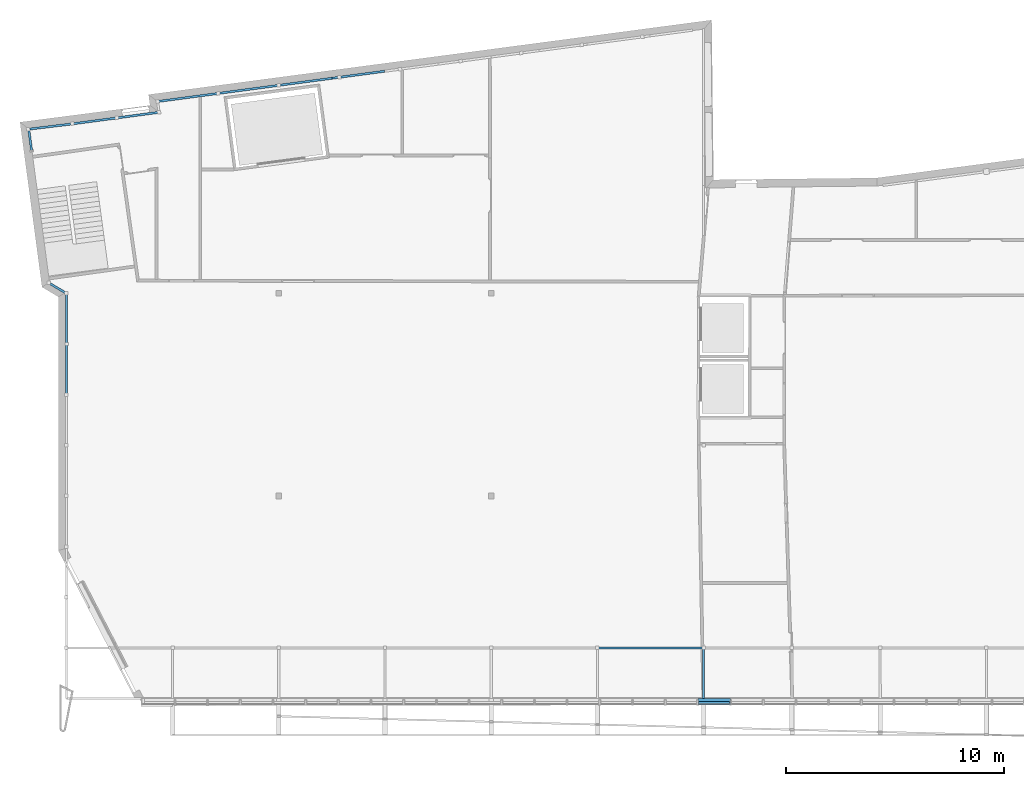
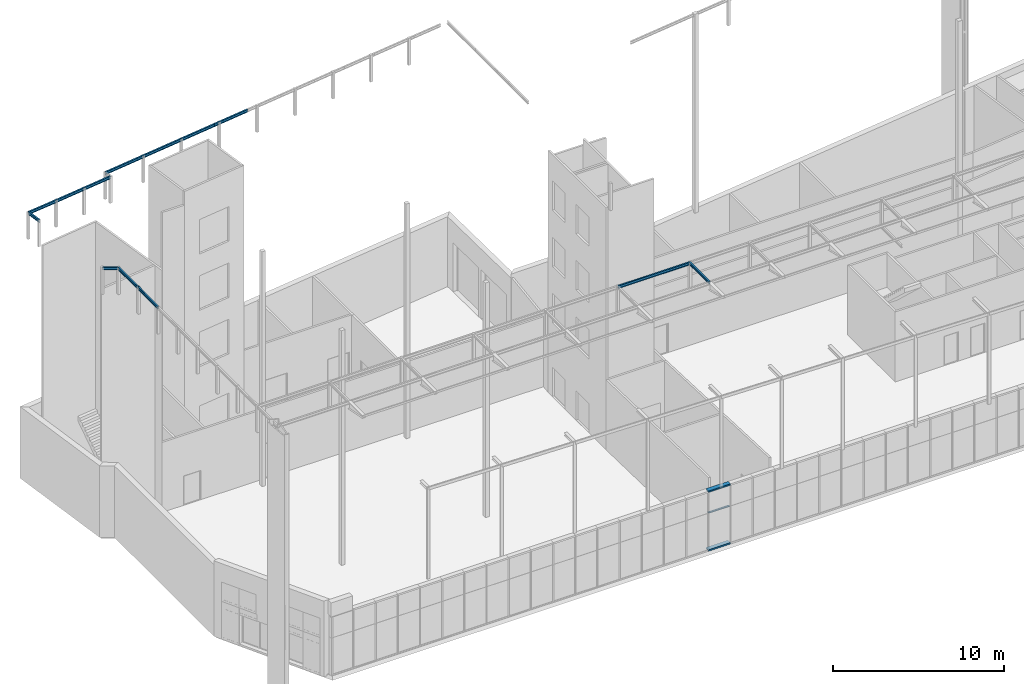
# One storey, part 9 of 40: 13 beams, 4 members, 1 element without a shape of its own.
"""IFC2X3 building model written with IfcOpenShell, lengths in metres."""

from ifc_helpers import new_model, entity, si_unit, converted_unit, money_unit, point, direction, frame, frame_2d, origin_with_axes, place, context, subcontext, project, spatial, polyline, circle_curve, parameter, trimmed, segment, composite_curve, outline, extrude, material, type_object, element, aggregate, save


model = new_model("IFC2X3")

# Units and contexts
model_context = context("Model", 3, precision=1e-05, world=origin_with_axes(), true_north=direction((0.0, 1.0)))
body_context = subcontext(model_context, "Body", "Model", "MODEL_VIEW")
ifc_project = project(units=[si_unit("LENGTHUNIT", "METRE"), si_unit("AREAUNIT", "SQUARE_METRE"), si_unit("VOLUMEUNIT", "CUBIC_METRE"), converted_unit("PLANEANGLEUNIT", "DEGREE", entity("IfcPlaneAngleMeasure", 0.0174532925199), si_unit("PLANEANGLEUNIT", "RADIAN"), dimensions=[0, 0, 0, 0, 0, 0, 0]), si_unit("SOLIDANGLEUNIT", "STERADIAN"), money_unit("EUR"), converted_unit("TIMEUNIT", "Year", entity("IfcTimeMeasure", 31556926.0), si_unit("TIMEUNIT", "SECOND"), dimensions=[0, 0, 0, 0, 0, 0, 0]), si_unit("MASSUNIT", "GRAM"), si_unit("THERMODYNAMICTEMPERATUREUNIT", "DEGREE_CELSIUS"), si_unit("LUMINOUSINTENSITYUNIT", "LUMEN")], contexts=[model_context])

# Site, building, storey
site_placement = place(None, origin_with_axes())
site = spatial("IfcSite", under=ifc_project, at=site_placement, Name="Undefined", CompositionType="ELEMENT")
building_placement = place(site_placement, origin_with_axes())
building = spatial("IfcBuilding", under=site, at=building_placement, Name="Undefined", CompositionType="ELEMENT")
storey_placement = place(building_placement, origin_with_axes())
storey = spatial("IfcBuildingStorey", under=building, at=storey_placement, Name="Rez de chauss\x8ee", CompositionType="ELEMENT", Elevation=0.0)

# Beams
ifc_material_1 = material(Name="STEEL/S235JRG2 3386696625")
beam_type_1 = type_object("IfcBeamType", Name="IPE200", PredefinedType="NOTDEFINED")
beam_1_placement = place(storey_placement, frame((0.278649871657, 26.379344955, 19.025), z_axis=(0.0, 0.0, 1.0), x_axis=(0.132256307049, -0.991215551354, 0.0)))
element("IfcBeam", 1, at=beam_1_placement, inside=storey, type_object=beam_type_1, material=ifc_material_1, Name="Poutre", ObjectType="BEAM", context=body_context, shape_type="SweptSolid", body=[
    extrude(outline(composite_curve([segment(polyline([(0.05, -0.1), (0.05, -0.0915), (0.0147999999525, -0.0915)]), True, "CONTINUOUS"), segment(trimmed(circle_curve(frame_2d((0.0147999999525, -0.0795), x_axis=(-1.0, 0.0)), 0.012), [point((0.0147999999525, -0.0915)), parameter(90.0)], [point((0.0027999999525, -0.0795)), parameter(0.0)], False, "CARTESIAN"), True, "CONTINUOUS"), segment(polyline([(0.0027999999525, -0.0795), (0.0027999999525, 0.0795)]), True, "CONTINUOUS"), segment(trimmed(circle_curve(frame_2d((0.0147999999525, 0.0795), x_axis=(0.0, 1.0)), 0.012), [point((0.0027999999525, 0.0795)), parameter(90.0)], [point((0.0147999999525, 0.0915)), parameter(0.0)], False, "CARTESIAN"), True, "CONTINUOUS"), segment(polyline([(0.0147999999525, 0.0915), (0.05, 0.0915), (0.05, 0.1), (-0.05, 0.1), (-0.05, 0.0915), (-0.0147999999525, 0.0915)]), True, "CONTINUOUS"), segment(trimmed(circle_curve(frame_2d((-0.0147999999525, 0.0795), x_axis=(1.0, 0.0)), 0.012), [point((-0.0147999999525, 0.0915)), parameter(90.0)], [point((-0.0027999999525, 0.0795)), parameter(0.0)], False, "CARTESIAN"), True, "CONTINUOUS"), segment(polyline([(-0.0027999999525, 0.0795), (-0.0027999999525, -0.0795)]), True, "CONTINUOUS"), segment(trimmed(circle_curve(frame_2d((-0.0147999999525, -0.0795), x_axis=(0.0, -1.0)), 0.012), [point((-0.0027999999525, -0.0795)), parameter(90.0)], [point((-0.0147999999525, -0.0915)), parameter(0.0)], False, "CARTESIAN"), True, "CONTINUOUS"), segment(polyline([(-0.0147999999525, -0.0915), (-0.05, -0.0915), (-0.05, -0.1), (0.05, -0.1)]), True, "CONTINUOUS")], self_intersect=False)), frame((0.0, 2.04999794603, 0.0), z_axis=(0.0, -1.0, 0.0), x_axis=(1.0, 0.0, 0.0)), (0.0, 0.0, 1.0), 2.04999794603),
])
beam_2_placement = place(storey_placement, frame((2.31063974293, 26.6504699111, 19.025), z_axis=(0.0, 0.0, 1.0), x_axis=(0.132256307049, -0.991215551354, 0.0)))
element("IfcBeam", 2, at=beam_2_placement, inside=storey, type_object=beam_type_1, material=ifc_material_1, Name="Poutre", ObjectType="BEAM", context=body_context, shape_type="SweptSolid", body=[
    extrude(outline(composite_curve([segment(polyline([(0.05, -0.1), (0.05, -0.0915), (0.0147999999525, -0.0915)]), True, "CONTINUOUS"), segment(trimmed(circle_curve(frame_2d((0.0147999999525, -0.0795), x_axis=(-1.0, 0.0)), 0.012), [point((0.0147999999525, -0.0915)), parameter(90.0)], [point((0.0027999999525, -0.0795)), parameter(0.0)], False, "CARTESIAN"), True, "CONTINUOUS"), segment(polyline([(0.0027999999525, -0.0795), (0.0027999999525, 0.0795)]), True, "CONTINUOUS"), segment(trimmed(circle_curve(frame_2d((0.0147999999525, 0.0795), x_axis=(0.0, 1.0)), 0.012), [point((0.0027999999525, 0.0795)), parameter(90.0)], [point((0.0147999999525, 0.0915)), parameter(0.0)], False, "CARTESIAN"), True, "CONTINUOUS"), segment(polyline([(0.0147999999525, 0.0915), (0.05, 0.0915), (0.05, 0.1), (-0.05, 0.1), (-0.05, 0.0915), (-0.0147999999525, 0.0915)]), True, "CONTINUOUS"), segment(trimmed(circle_curve(frame_2d((-0.0147999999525, 0.0795), x_axis=(1.0, 0.0)), 0.012), [point((-0.0147999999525, 0.0915)), parameter(90.0)], [point((-0.0027999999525, 0.0795)), parameter(0.0)], False, "CARTESIAN"), True, "CONTINUOUS"), segment(polyline([(-0.0027999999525, 0.0795), (-0.0027999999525, -0.0795)]), True, "CONTINUOUS"), segment(trimmed(circle_curve(frame_2d((-0.0147999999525, -0.0795), x_axis=(0.0, -1.0)), 0.012), [point((-0.0027999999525, -0.0795)), parameter(90.0)], [point((-0.0147999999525, -0.0915)), parameter(0.0)], False, "CARTESIAN"), True, "CONTINUOUS"), segment(polyline([(-0.0147999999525, -0.0915), (-0.05, -0.0915), (-0.05, -0.1), (0.05, -0.1)]), True, "CONTINUOUS")], self_intersect=False)), frame((0.0, 1.96000612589, 0.0), z_axis=(0.0, -1.0, 0.0), x_axis=(1.0, 0.0, 0.0)), (0.0, 0.0, 1.0), 1.96000612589),
])
beam_3_placement = place(storey_placement, frame((0.0136786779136, 16.2749999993, 19.025), z_axis=(0.0, 0.0, 1.0), x_axis=(0.999982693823, 0.00588320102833, 0.0)))
element("IfcBeam", 3, at=beam_3_placement, inside=storey, type_object=beam_type_1, material=ifc_material_1, Name="Poutre", ObjectType="BEAM", context=body_context, shape_type="SweptSolid", body=[
    extrude(outline(composite_curve([segment(polyline([(0.05, -0.1), (0.05, -0.0915), (0.0147999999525, -0.0915)]), True, "CONTINUOUS"), segment(trimmed(circle_curve(frame_2d((0.0147999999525, -0.0795), x_axis=(-1.0, 0.0)), 0.012), [point((0.0147999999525, -0.0915)), parameter(90.0)], [point((0.0027999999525, -0.0795)), parameter(0.0)], False, "CARTESIAN"), True, "CONTINUOUS"), segment(polyline([(0.0027999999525, -0.0795), (0.0027999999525, 0.0795)]), True, "CONTINUOUS"), segment(trimmed(circle_curve(frame_2d((0.0147999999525, 0.0795), x_axis=(0.0, 1.0)), 0.012), [point((0.0027999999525, 0.0795)), parameter(90.0)], [point((0.0147999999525, 0.0915)), parameter(0.0)], False, "CARTESIAN"), True, "CONTINUOUS"), segment(polyline([(0.0147999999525, 0.0915), (0.05, 0.0915), (0.05, 0.1), (-0.05, 0.1), (-0.05, 0.0915), (-0.0147999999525, 0.0915)]), True, "CONTINUOUS"), segment(trimmed(circle_curve(frame_2d((-0.0147999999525, 0.0795), x_axis=(1.0, 0.0)), 0.012), [point((-0.0147999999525, 0.0915)), parameter(90.0)], [point((-0.0027999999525, 0.0795)), parameter(0.0)], False, "CARTESIAN"), True, "CONTINUOUS"), segment(polyline([(-0.0027999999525, 0.0795), (-0.0027999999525, -0.0795)]), True, "CONTINUOUS"), segment(trimmed(circle_curve(frame_2d((-0.0147999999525, -0.0795), x_axis=(0.0, -1.0)), 0.012), [point((-0.0027999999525, -0.0795)), parameter(90.0)], [point((-0.0147999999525, -0.0915)), parameter(0.0)], False, "CARTESIAN"), True, "CONTINUOUS"), segment(polyline([(-0.0147999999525, -0.0915), (-0.05, -0.0915), (-0.05, -0.1), (0.05, -0.1)]), True, "CONTINUOUS")], self_intersect=False)), frame((0.0, 2.32504023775, 0.0), z_axis=(0.0, -1.0, 0.0), x_axis=(1.0, 0.0, 0.0)), (0.0, 0.0, 1.0), 2.32504023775),
])
beam_4_placement = place(storey_placement, frame((0.0, 13.9499999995, 19.025), z_axis=(0.0, 0.0, 1.0), x_axis=(0.999982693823, -0.00588320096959, 0.0)))
element("IfcBeam", 4, at=beam_4_placement, inside=storey, type_object=beam_type_1, material=ifc_material_1, Name="Poutre", ObjectType="BEAM", context=body_context, shape_type="SweptSolid", body=[
    extrude(outline(composite_curve([segment(polyline([(0.05, -0.1), (0.05, -0.0915), (0.0147999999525, -0.0915)]), True, "CONTINUOUS"), segment(trimmed(circle_curve(frame_2d((0.0147999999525, -0.0795), x_axis=(-1.0, 0.0)), 0.012), [point((0.0147999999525, -0.0915)), parameter(90.0)], [point((0.0027999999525, -0.0795)), parameter(0.0)], False, "CARTESIAN"), True, "CONTINUOUS"), segment(polyline([(0.0027999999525, -0.0795), (0.0027999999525, 0.0795)]), True, "CONTINUOUS"), segment(trimmed(circle_curve(frame_2d((0.0147999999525, 0.0795), x_axis=(0.0, 1.0)), 0.012), [point((0.0027999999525, 0.0795)), parameter(90.0)], [point((0.0147999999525, 0.0915)), parameter(0.0)], False, "CARTESIAN"), True, "CONTINUOUS"), segment(polyline([(0.0147999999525, 0.0915), (0.05, 0.0915), (0.05, 0.1), (-0.05, 0.1), (-0.05, 0.0915), (-0.0147999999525, 0.0915)]), True, "CONTINUOUS"), segment(trimmed(circle_curve(frame_2d((-0.0147999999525, 0.0795), x_axis=(1.0, 0.0)), 0.012), [point((-0.0147999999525, 0.0915)), parameter(90.0)], [point((-0.0027999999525, 0.0795)), parameter(0.0)], False, "CARTESIAN"), True, "CONTINUOUS"), segment(polyline([(-0.0027999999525, 0.0795), (-0.0027999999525, -0.0795)]), True, "CONTINUOUS"), segment(trimmed(circle_curve(frame_2d((-0.0147999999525, -0.0795), x_axis=(0.0, -1.0)), 0.012), [point((-0.0027999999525, -0.0795)), parameter(90.0)], [point((-0.0147999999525, -0.0915)), parameter(0.0)], False, "CARTESIAN"), True, "CONTINUOUS"), segment(polyline([(-0.0147999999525, -0.0915), (-0.05, -0.0915), (-0.05, -0.1), (0.05, -0.1)]), True, "CONTINUOUS")], self_intersect=False)), frame((0.0, 2.32504023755, 0.0), z_axis=(0.0, -1.0, 0.0), x_axis=(1.0, 0.0, 0.0)), (0.0, 0.0, 1.0), 2.32504023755),
])
beam_5_placement = place(storey_placement, frame((-8.21482992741e-10, 18.5999999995, 19.025), z_axis=(0.0, 0.0, 1.0), x_axis=(0.511147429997, 0.859493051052, 0.0)))
element("IfcBeam", 5, at=beam_5_placement, inside=storey, type_object=beam_type_1, material=ifc_material_1, Name="Poutre", ObjectType="BEAM", context=body_context, shape_type="SweptSolid", body=[
    extrude(outline(composite_curve([segment(polyline([(0.05, -0.1), (0.05, -0.0915), (0.0147999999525, -0.0915)]), True, "CONTINUOUS"), segment(trimmed(circle_curve(frame_2d((0.0147999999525, -0.0795), x_axis=(-1.0, 0.0)), 0.012), [point((0.0147999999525, -0.0915)), parameter(90.0)], [point((0.0027999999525, -0.0795)), parameter(0.0)], False, "CARTESIAN"), True, "CONTINUOUS"), segment(polyline([(0.0027999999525, -0.0795), (0.0027999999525, 0.0795)]), True, "CONTINUOUS"), segment(trimmed(circle_curve(frame_2d((0.0147999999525, 0.0795), x_axis=(0.0, 1.0)), 0.012), [point((0.0027999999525, 0.0795)), parameter(90.0)], [point((0.0147999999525, 0.0915)), parameter(0.0)], False, "CARTESIAN"), True, "CONTINUOUS"), segment(polyline([(0.0147999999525, 0.0915), (0.05, 0.0915), (0.05, 0.1), (-0.05, 0.1), (-0.05, 0.0915), (-0.0147999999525, 0.0915)]), True, "CONTINUOUS"), segment(trimmed(circle_curve(frame_2d((-0.0147999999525, 0.0795), x_axis=(1.0, 0.0)), 0.012), [point((-0.0147999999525, 0.0915)), parameter(90.0)], [point((-0.0027999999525, 0.0795)), parameter(0.0)], False, "CARTESIAN"), True, "CONTINUOUS"), segment(polyline([(-0.0027999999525, 0.0795), (-0.0027999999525, -0.0795)]), True, "CONTINUOUS"), segment(trimmed(circle_curve(frame_2d((-0.0147999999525, -0.0795), x_axis=(0.0, -1.0)), 0.012), [point((-0.0027999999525, -0.0795)), parameter(90.0)], [point((-0.0147999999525, -0.0915)), parameter(0.0)], False, "CARTESIAN"), True, "CONTINUOUS"), segment(polyline([(-0.0147999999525, -0.0915), (-0.05, -0.0915), (-0.05, -0.1), (0.05, -0.1)]), True, "CONTINUOUS")], self_intersect=False)), frame((0.0, 0.949745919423, 0.0), z_axis=(0.0, -1.0, 0.0), x_axis=(1.0, 0.0, 0.0)), (0.0, 0.0, 1.0), 0.949745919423),
])
beam_6_placement = place(storey_placement, frame((6.96864980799, 27.7764147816, 19.025), z_axis=(0.0, 0.0, 1.0), x_axis=(0.132257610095, -0.99121537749, 0.0)))
element("IfcBeam", 6, at=beam_6_placement, inside=storey, type_object=beam_type_1, material=ifc_material_1, Name="Poutre", ObjectType="BEAM", context=body_context, shape_type="SweptSolid", body=[
    extrude(outline(composite_curve([segment(polyline([(0.05, -0.1), (0.05, -0.0915), (0.0147999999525, -0.0915)]), True, "CONTINUOUS"), segment(trimmed(circle_curve(frame_2d((0.0147999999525, -0.0795), x_axis=(-1.0, 0.0)), 0.012), [point((0.0147999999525, -0.0915)), parameter(90.0)], [point((0.0027999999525, -0.0795)), parameter(0.0)], False, "CARTESIAN"), True, "CONTINUOUS"), segment(polyline([(0.0027999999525, -0.0795), (0.0027999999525, 0.0795)]), True, "CONTINUOUS"), segment(trimmed(circle_curve(frame_2d((0.0147999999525, 0.0795), x_axis=(0.0, 1.0)), 0.012), [point((0.0027999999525, 0.0795)), parameter(90.0)], [point((0.0147999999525, 0.0915)), parameter(0.0)], False, "CARTESIAN"), True, "CONTINUOUS"), segment(polyline([(0.0147999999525, 0.0915), (0.05, 0.0915), (0.05, 0.1), (-0.05, 0.1), (-0.05, 0.0915), (-0.0147999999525, 0.0915)]), True, "CONTINUOUS"), segment(trimmed(circle_curve(frame_2d((-0.0147999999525, 0.0795), x_axis=(1.0, 0.0)), 0.012), [point((-0.0147999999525, 0.0915)), parameter(90.0)], [point((-0.0027999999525, 0.0795)), parameter(0.0)], False, "CARTESIAN"), True, "CONTINUOUS"), segment(polyline([(-0.0027999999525, 0.0795), (-0.0027999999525, -0.0795)]), True, "CONTINUOUS"), segment(trimmed(circle_curve(frame_2d((-0.0147999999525, -0.0795), x_axis=(0.0, -1.0)), 0.012), [point((-0.0027999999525, -0.0795)), parameter(90.0)], [point((-0.0147999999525, -0.0915)), parameter(0.0)], False, "CARTESIAN"), True, "CONTINUOUS"), segment(polyline([(-0.0147999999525, -0.0915), (-0.05, -0.0915), (-0.05, -0.1), (0.05, -0.1)]), True, "CONTINUOUS")], self_intersect=False)), frame((0.0, 2.80599989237, 0.0), z_axis=(0.0, -1.0, 0.0), x_axis=(1.0, 0.0, 0.0)), (0.0, 0.0, 1.0), 2.80599989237),
])
beam_7_placement = place(storey_placement, frame((12.1874998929, 28.4727599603, 19.025), z_axis=(0.0, 0.0, 1.0), x_axis=(0.132256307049, -0.991215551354, 0.0)))
element("IfcBeam", 7, at=beam_7_placement, inside=storey, type_object=beam_type_1, material=ifc_material_1, Name="Poutre", ObjectType="BEAM", context=body_context, shape_type="SweptSolid", body=[
    extrude(outline(composite_curve([segment(polyline([(0.05, -0.1), (0.05, -0.0915), (0.0147999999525, -0.0915)]), True, "CONTINUOUS"), segment(trimmed(circle_curve(frame_2d((0.0147999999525, -0.0795), x_axis=(-1.0, 0.0)), 0.012), [point((0.0147999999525, -0.0915)), parameter(90.0)], [point((0.0027999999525, -0.0795)), parameter(0.0)], False, "CARTESIAN"), True, "CONTINUOUS"), segment(polyline([(0.0027999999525, -0.0795), (0.0027999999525, 0.0795)]), True, "CONTINUOUS"), segment(trimmed(circle_curve(frame_2d((0.0147999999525, 0.0795), x_axis=(0.0, 1.0)), 0.012), [point((0.0027999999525, 0.0795)), parameter(90.0)], [point((0.0147999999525, 0.0915)), parameter(0.0)], False, "CARTESIAN"), True, "CONTINUOUS"), segment(polyline([(0.0147999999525, 0.0915), (0.05, 0.0915), (0.05, 0.1), (-0.05, 0.1), (-0.05, 0.0915), (-0.0147999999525, 0.0915)]), True, "CONTINUOUS"), segment(trimmed(circle_curve(frame_2d((-0.0147999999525, 0.0795), x_axis=(1.0, 0.0)), 0.012), [point((-0.0147999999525, 0.0915)), parameter(90.0)], [point((-0.0027999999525, 0.0795)), parameter(0.0)], False, "CARTESIAN"), True, "CONTINUOUS"), segment(polyline([(-0.0027999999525, 0.0795), (-0.0027999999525, -0.0795)]), True, "CONTINUOUS"), segment(trimmed(circle_curve(frame_2d((-0.0147999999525, -0.0795), x_axis=(0.0, -1.0)), 0.012), [point((-0.0027999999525, -0.0795)), parameter(90.0)], [point((-0.0147999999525, -0.0915)), parameter(0.0)], False, "CARTESIAN"), True, "CONTINUOUS"), segment(polyline([(-0.0147999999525, -0.0915), (-0.05, -0.0915), (-0.05, -0.1), (0.05, -0.1)]), True, "CONTINUOUS")], self_intersect=False)), frame((0.0, 2.43476399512, 0.0), z_axis=(0.0, -1.0, 0.0), x_axis=(1.0, 0.0, 0.0)), (0.0, 0.0, 1.0), 2.43476399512),
])
beam_8_placement = place(storey_placement, frame((4.18730000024, 27.4052999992, 19.025), z_axis=(0.0, 0.0, 1.0), x_axis=(0.132257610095, -0.99121537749, 0.0)))
element("IfcBeam", 8, at=beam_8_placement, inside=storey, type_object=beam_type_1, material=ifc_material_1, Name="Poutre", ObjectType="BEAM", context=body_context, shape_type="SweptSolid", body=[
    extrude(outline(composite_curve([segment(polyline([(0.05, -0.1), (0.05, -0.0915), (0.0147999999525, -0.0915)]), True, "CONTINUOUS"), segment(trimmed(circle_curve(frame_2d((0.0147999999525, -0.0795), x_axis=(-1.0, 0.0)), 0.012), [point((0.0147999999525, -0.0915)), parameter(90.0)], [point((0.0027999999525, -0.0795)), parameter(0.0)], False, "CARTESIAN"), True, "CONTINUOUS"), segment(polyline([(0.0027999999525, -0.0795), (0.0027999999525, 0.0795)]), True, "CONTINUOUS"), segment(trimmed(circle_curve(frame_2d((0.0147999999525, 0.0795), x_axis=(0.0, 1.0)), 0.012), [point((0.0027999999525, 0.0795)), parameter(90.0)], [point((0.0147999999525, 0.0915)), parameter(0.0)], False, "CARTESIAN"), True, "CONTINUOUS"), segment(polyline([(0.0147999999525, 0.0915), (0.05, 0.0915), (0.05, 0.1), (-0.05, 0.1), (-0.05, 0.0915), (-0.0147999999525, 0.0915)]), True, "CONTINUOUS"), segment(trimmed(circle_curve(frame_2d((-0.0147999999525, 0.0795), x_axis=(1.0, 0.0)), 0.012), [point((-0.0147999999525, 0.0915)), parameter(90.0)], [point((-0.0027999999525, 0.0795)), parameter(0.0)], False, "CARTESIAN"), True, "CONTINUOUS"), segment(polyline([(-0.0027999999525, 0.0795), (-0.0027999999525, -0.0795)]), True, "CONTINUOUS"), segment(trimmed(circle_curve(frame_2d((-0.0147999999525, -0.0795), x_axis=(0.0, -1.0)), 0.012), [point((-0.0027999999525, -0.0795)), parameter(90.0)], [point((-0.0147999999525, -0.0915)), parameter(0.0)], False, "CARTESIAN"), True, "CONTINUOUS"), segment(polyline([(-0.0147999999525, -0.0915), (-0.05, -0.0915), (-0.05, -0.1), (0.05, -0.1)]), True, "CONTINUOUS")], self_intersect=False)), frame((0.0, 2.80599945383, 0.0), z_axis=(0.0, -1.0, 0.0), x_axis=(1.0, 0.0, 0.0)), (0.0, 0.0, 1.0), 2.80599945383),
])
beam_9_placement = place(storey_placement, frame((9.7500000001, 28.1475299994, 19.025), z_axis=(0.0, 0.0, 1.0), x_axis=(0.132256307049, -0.991215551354, 0.0)))
element("IfcBeam", 9, at=beam_9_placement, inside=storey, type_object=beam_type_1, material=ifc_material_1, Name="Poutre", ObjectType="BEAM", context=body_context, shape_type="SweptSolid", body=[
    extrude(outline(composite_curve([segment(polyline([(0.05, -0.1), (0.05, -0.0915), (0.0147999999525, -0.0915)]), True, "CONTINUOUS"), segment(trimmed(circle_curve(frame_2d((0.0147999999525, -0.0795), x_axis=(-1.0, 0.0)), 0.012), [point((0.0147999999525, -0.0915)), parameter(90.0)], [point((0.0027999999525, -0.0795)), parameter(0.0)], False, "CARTESIAN"), True, "CONTINUOUS"), segment(polyline([(0.0027999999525, -0.0795), (0.0027999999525, 0.0795)]), True, "CONTINUOUS"), segment(trimmed(circle_curve(frame_2d((0.0147999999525, 0.0795), x_axis=(0.0, 1.0)), 0.012), [point((0.0027999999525, 0.0795)), parameter(90.0)], [point((0.0147999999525, 0.0915)), parameter(0.0)], False, "CARTESIAN"), True, "CONTINUOUS"), segment(polyline([(0.0147999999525, 0.0915), (0.05, 0.0915), (0.05, 0.1), (-0.05, 0.1), (-0.05, 0.0915), (-0.0147999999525, 0.0915)]), True, "CONTINUOUS"), segment(trimmed(circle_curve(frame_2d((-0.0147999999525, 0.0795), x_axis=(1.0, 0.0)), 0.012), [point((-0.0147999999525, 0.0915)), parameter(90.0)], [point((-0.0027999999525, 0.0795)), parameter(0.0)], False, "CARTESIAN"), True, "CONTINUOUS"), segment(polyline([(-0.0027999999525, 0.0795), (-0.0027999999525, -0.0795)]), True, "CONTINUOUS"), segment(trimmed(circle_curve(frame_2d((-0.0147999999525, -0.0795), x_axis=(0.0, -1.0)), 0.012), [point((-0.0027999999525, -0.0795)), parameter(90.0)], [point((-0.0147999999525, -0.0915)), parameter(0.0)], False, "CARTESIAN"), True, "CONTINUOUS"), segment(polyline([(-0.0147999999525, -0.0915), (-0.05, -0.0915), (-0.05, -0.1), (0.05, -0.1)]), True, "CONTINUOUS")], self_intersect=False)), frame((0.0, 2.45910151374, 0.0), z_axis=(0.0, -1.0, 0.0), x_axis=(1.0, 0.0, 0.0)), (0.0, 0.0, 1.0), 2.45910151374),
])
beam_10_placement = place(storey_placement, frame((-1.75651428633, 26.1320100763, 19.025), z_axis=(0.0, 0.0, 1.0), x_axis=(0.120643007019, -0.992695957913, 0.0)))
element("IfcBeam", 10, at=beam_10_placement, inside=storey, type_object=beam_type_1, material=ifc_material_1, Name="Poutre", ObjectType="BEAM", context=body_context, shape_type="SweptSolid", body=[
    extrude(outline(composite_curve([segment(polyline([(0.05, -0.1), (0.05, -0.0915), (0.0147999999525, -0.0915)]), True, "CONTINUOUS"), segment(trimmed(circle_curve(frame_2d((0.0147999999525, -0.0795), x_axis=(-1.0, 0.0)), 0.012), [point((0.0147999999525, -0.0915)), parameter(90.0)], [point((0.0027999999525, -0.0795)), parameter(0.0)], False, "CARTESIAN"), True, "CONTINUOUS"), segment(polyline([(0.0027999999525, -0.0795), (0.0027999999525, 0.0795)]), True, "CONTINUOUS"), segment(trimmed(circle_curve(frame_2d((0.0147999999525, 0.0795), x_axis=(0.0, 1.0)), 0.012), [point((0.0027999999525, 0.0795)), parameter(90.0)], [point((0.0147999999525, 0.0915)), parameter(0.0)], False, "CARTESIAN"), True, "CONTINUOUS"), segment(polyline([(0.0147999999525, 0.0915), (0.05, 0.0915), (0.05, 0.1), (-0.05, 0.1), (-0.05, 0.0915), (-0.0147999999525, 0.0915)]), True, "CONTINUOUS"), segment(trimmed(circle_curve(frame_2d((-0.0147999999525, 0.0795), x_axis=(1.0, 0.0)), 0.012), [point((-0.0147999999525, 0.0915)), parameter(90.0)], [point((-0.0027999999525, 0.0795)), parameter(0.0)], False, "CARTESIAN"), True, "CONTINUOUS"), segment(polyline([(-0.0027999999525, 0.0795), (-0.0027999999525, -0.0795)]), True, "CONTINUOUS"), segment(trimmed(circle_curve(frame_2d((-0.0147999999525, -0.0795), x_axis=(0.0, -1.0)), 0.012), [point((-0.0027999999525, -0.0795)), parameter(90.0)], [point((-0.0147999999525, -0.0915)), parameter(0.0)], False, "CARTESIAN"), True, "CONTINUOUS"), segment(polyline([(-0.0147999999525, -0.0915), (-0.05, -0.0915), (-0.05, -0.1), (0.05, -0.1)]), True, "CONTINUOUS")], self_intersect=False)), frame((0.0, 2.05013845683, 0.0), z_axis=(0.0, -1.0, 0.0), x_axis=(1.0, 0.0, 0.0)), (0.0, 0.0, 1.0), 2.05013845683),
])
beam_11_placement = place(storey_placement, frame((29.2499999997, 6.91088519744e-10, 19.025), z_axis=(0.0, 0.0, 1.0), x_axis=(1.0, 0.0, 0.0)))
element("IfcBeam", 11, at=beam_11_placement, inside=storey, type_object=beam_type_1, material=ifc_material_1, Name="Poutre", ObjectType="BEAM", context=body_context, shape_type="SweptSolid", body=[
    extrude(outline(composite_curve([segment(polyline([(0.05, -0.1), (0.05, -0.0915), (0.0147999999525, -0.0915)]), True, "CONTINUOUS"), segment(trimmed(circle_curve(frame_2d((0.0147999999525, -0.0795), x_axis=(-1.0, 0.0)), 0.012), [point((0.0147999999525, -0.0915)), parameter(90.0)], [point((0.0027999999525, -0.0795)), parameter(0.0)], False, "CARTESIAN"), True, "CONTINUOUS"), segment(polyline([(0.0027999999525, -0.0795), (0.0027999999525, 0.0795)]), True, "CONTINUOUS"), segment(trimmed(circle_curve(frame_2d((0.0147999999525, 0.0795), x_axis=(0.0, 1.0)), 0.012), [point((0.0027999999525, 0.0795)), parameter(90.0)], [point((0.0147999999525, 0.0915)), parameter(0.0)], False, "CARTESIAN"), True, "CONTINUOUS"), segment(polyline([(0.0147999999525, 0.0915), (0.05, 0.0915), (0.05, 0.1), (-0.05, 0.1), (-0.05, 0.0915), (-0.0147999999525, 0.0915)]), True, "CONTINUOUS"), segment(trimmed(circle_curve(frame_2d((-0.0147999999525, 0.0795), x_axis=(1.0, 0.0)), 0.012), [point((-0.0147999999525, 0.0915)), parameter(90.0)], [point((-0.0027999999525, 0.0795)), parameter(0.0)], False, "CARTESIAN"), True, "CONTINUOUS"), segment(polyline([(-0.0027999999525, 0.0795), (-0.0027999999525, -0.0795)]), True, "CONTINUOUS"), segment(trimmed(circle_curve(frame_2d((-0.0147999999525, -0.0795), x_axis=(0.0, -1.0)), 0.012), [point((-0.0027999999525, -0.0795)), parameter(90.0)], [point((-0.0147999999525, -0.0915)), parameter(0.0)], False, "CARTESIAN"), True, "CONTINUOUS"), segment(polyline([(-0.0147999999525, -0.0915), (-0.05, -0.0915), (-0.05, -0.1), (0.05, -0.1)]), True, "CONTINUOUS")], self_intersect=False)), frame((0.0, 2.32499999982, 0.0), z_axis=(0.0, -1.0, 0.0), x_axis=(1.0, 0.0, 0.0)), (0.0, 0.0, 1.0), 2.32499999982),
])
beam_12_placement = place(storey_placement, frame((24.3750000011, 2.32499999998, 19.025), z_axis=(0.0, 0.0, 1.0), x_axis=(0.0, -1.0, 0.0)))
element("IfcBeam", 12, at=beam_12_placement, inside=storey, type_object=beam_type_1, material=ifc_material_1, Name="Poutre", ObjectType="BEAM", context=body_context, shape_type="SweptSolid", body=[
    extrude(outline(composite_curve([segment(polyline([(0.05, -0.1), (0.05, -0.0915), (0.0147999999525, -0.0915)]), True, "CONTINUOUS"), segment(trimmed(circle_curve(frame_2d((0.0147999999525, -0.0795), x_axis=(-1.0, 0.0)), 0.012), [point((0.0147999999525, -0.0915)), parameter(90.0)], [point((0.0027999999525, -0.0795)), parameter(0.0)], False, "CARTESIAN"), True, "CONTINUOUS"), segment(polyline([(0.0027999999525, -0.0795), (0.0027999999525, 0.0795)]), True, "CONTINUOUS"), segment(trimmed(circle_curve(frame_2d((0.0147999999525, 0.0795), x_axis=(0.0, 1.0)), 0.012), [point((0.0027999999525, 0.0795)), parameter(90.0)], [point((0.0147999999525, 0.0915)), parameter(0.0)], False, "CARTESIAN"), True, "CONTINUOUS"), segment(polyline([(0.0147999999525, 0.0915), (0.05, 0.0915), (0.05, 0.1), (-0.05, 0.1), (-0.05, 0.0915), (-0.0147999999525, 0.0915)]), True, "CONTINUOUS"), segment(trimmed(circle_curve(frame_2d((-0.0147999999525, 0.0795), x_axis=(1.0, 0.0)), 0.012), [point((-0.0147999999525, 0.0915)), parameter(90.0)], [point((-0.0027999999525, 0.0795)), parameter(0.0)], False, "CARTESIAN"), True, "CONTINUOUS"), segment(polyline([(-0.0027999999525, 0.0795), (-0.0027999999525, -0.0795)]), True, "CONTINUOUS"), segment(trimmed(circle_curve(frame_2d((-0.0147999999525, -0.0795), x_axis=(0.0, -1.0)), 0.012), [point((-0.0027999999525, -0.0795)), parameter(90.0)], [point((-0.0147999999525, -0.0915)), parameter(0.0)], False, "CARTESIAN"), True, "CONTINUOUS"), segment(polyline([(-0.0147999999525, -0.0915), (-0.05, -0.0915), (-0.05, -0.1), (0.05, -0.1)]), True, "CONTINUOUS")], self_intersect=False)), frame((0.0, 4.87499999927, 0.0), z_axis=(0.0, -1.0, 0.0), x_axis=(1.0, 0.0, 0.0)), (0.0, 0.0, 1.0), 4.87499999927),
])
beam_type_2 = type_object("IfcBeamType", Name="IPE200 0000000000 100 x 200", PredefinedType="NOTDEFINED")
beam_13_placement = place(storey_placement, frame((-1.72676212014, 26.1358599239, 19.025), z_axis=(0.0, 0.0, 1.0), x_axis=(-0.991215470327, -0.132256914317, 0.0)))
element("IfcBeam", 13, at=beam_13_placement, inside=storey, type_object=beam_type_2, material=ifc_material_1, Name="Poutre", ObjectType="BEAM", context=body_context, shape_type="SweptSolid", body=[
    extrude(outline(composite_curve([segment(polyline([(0.05, -0.1), (0.05, -0.0915), (0.0147999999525, -0.0915)]), True, "CONTINUOUS"), segment(trimmed(circle_curve(frame_2d((0.0147999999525, -0.0795), x_axis=(-1.0, 0.0)), 0.012), [point((0.0147999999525, -0.0915)), parameter(90.0)], [point((0.0027999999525, -0.0795)), parameter(0.0)], False, "CARTESIAN"), True, "CONTINUOUS"), segment(polyline([(0.0027999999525, -0.0795), (0.0027999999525, 0.0795)]), True, "CONTINUOUS"), segment(trimmed(circle_curve(frame_2d((0.0147999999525, 0.0795), x_axis=(0.0, 1.0)), 0.012), [point((0.0027999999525, 0.0795)), parameter(90.0)], [point((0.0147999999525, 0.0915)), parameter(0.0)], False, "CARTESIAN"), True, "CONTINUOUS"), segment(polyline([(0.0147999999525, 0.0915), (0.05, 0.0915), (0.05, 0.1), (-0.05, 0.1), (-0.05, 0.0915), (-0.0147999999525, 0.0915)]), True, "CONTINUOUS"), segment(trimmed(circle_curve(frame_2d((-0.0147999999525, 0.0795), x_axis=(1.0, 0.0)), 0.012), [point((-0.0147999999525, 0.0915)), parameter(90.0)], [point((-0.0027999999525, 0.0795)), parameter(0.0)], False, "CARTESIAN"), True, "CONTINUOUS"), segment(polyline([(-0.0027999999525, 0.0795), (-0.0027999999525, -0.0795)]), True, "CONTINUOUS"), segment(trimmed(circle_curve(frame_2d((-0.0147999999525, -0.0795), x_axis=(0.0, -1.0)), 0.012), [point((-0.0027999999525, -0.0795)), parameter(90.0)], [point((-0.0147999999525, -0.0915)), parameter(0.0)], False, "CARTESIAN"), True, "CONTINUOUS"), segment(polyline([(-0.0147999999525, -0.0915), (-0.05, -0.0915), (-0.05, -0.1), (0.05, -0.1)]), True, "CONTINUOUS")], self_intersect=False)), frame((0.0, 1.05251879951, 0.0), z_axis=(0.0, -1.0, 0.0), x_axis=(1.0, 0.0, 0.0)), (0.0, 0.0, 1.0), 1.05251879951),
])

# Curtain wall, members
curtain_wall_type = type_object("IfcCurtainWallType", Name="Type de mur-rideau", PredefinedType="NOTDEFINED")
curtain_wall_placement = place(storey_placement, frame((61.0415862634, -0.249999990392, 0.1), z_axis=(0.0, 0.0, 1.0), x_axis=(1.0, 0.0, 0.0)))
curtain_wall = element("IfcCurtainWall", 14, at=curtain_wall_placement, inside=storey, type_object=curtain_wall_type, Name="CurtainWall_02", ObjectType="CURTAIN WALL")
ifc_material_2 = material(Name="25 % 359672764")
member_type_1 = type_object("IfcMemberType", Name="Cadre 100 x 300", PredefinedType="NOTDEFINED")
member_1_placement = place(curtain_wall_placement, frame((-32.0584137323, 5.51620097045e-07, 0.0), z_axis=(1.0, -1.72067183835e-08, 0.0), x_axis=(0.0, 0.0, 1.0)))
member_1 = element("IfcMember", 15, at=member_1_placement, type_object=member_type_1, material=ifc_material_2, Name="Frame-Bnd-926", context=body_context, shape_type="SweptSolid", body=[
    extrude(outline(polyline([(-0.25, -0.1), (0.05, -0.1), (0.05, 0.0), (-0.25, 0.0), (-0.25, -0.1)])), frame((0.0, 0.0, 0.0), z_axis=(0.0, 0.0, 1.0), x_axis=(0.0, 1.0, 0.0)), (0.0, 0.0, 1.0), 1.5),
])
member_2_placement = place(curtain_wall_placement, frame((-30.5584137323, 5.25810019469e-07, 4.3), z_axis=(-1.0, 1.72067183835e-08, 0.0), x_axis=(0.0, 0.0, -1.0)))
member_2 = element("IfcMember", 16, at=member_2_placement, type_object=member_type_1, material=ifc_material_2, Name="Frame-Bnd-792", context=body_context, shape_type="SweptSolid", body=[
    extrude(outline(polyline([(0.25, 0.1), (-0.05, 0.1), (-0.05, 0.0), (0.25, 0.0), (0.25, 0.1)])), frame((0.0, 0.0, 0.0), z_axis=(0.0, 0.0, 1.0), x_axis=(0.0, -1.0, 0.0)), (0.0, 0.0, 1.0), 1.5),
])
member_type_2 = type_object("IfcMemberType", Name="Traverse 60 x 100", PredefinedType="NOTDEFINED")
member_3_placement = place(curtain_wall_placement, frame((-32.0584137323, 5.51620097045e-07, 2.7), z_axis=(1.0, -1.72067183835e-08, 0.0), x_axis=(0.0, 0.0, 1.0)))
member_3 = element("IfcMember", 17, at=member_3_placement, type_object=member_type_2, material=ifc_material_2, Name="Frame-Trs-922", context=body_context, shape_type="SweptSolid", body=[
    extrude(outline(polyline([(-0.11, -0.03), (-0.01, -0.03), (-0.01, 0.03), (-0.11, 0.03), (-0.11, -0.03)])), frame((0.0, 0.0, 0.04), z_axis=(0.0, 0.0, 1.0), x_axis=(0.0, 1.0, 0.0)), (0.0, 0.0, 1.0), 1.42),
])
member_4_placement = place(curtain_wall_placement, frame((-32.0584137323, 5.51620097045e-07, 4.2), z_axis=(1.0, -1.72067183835e-08, 0.0), x_axis=(0.0, 0.0, 1.0)))
member_4 = element("IfcMember", 18, at=member_4_placement, type_object=member_type_2, material=ifc_material_2, Name="Frame-Trs-227", context=body_context, shape_type="SweptSolid", body=[
    extrude(outline(polyline([(-0.11, -0.03), (-0.01, -0.03), (-0.01, 0.03), (-0.11, 0.03), (-0.11, -0.03)])), frame((0.0, 0.0, 0.04), z_axis=(0.0, 0.0, 1.0), x_axis=(0.0, 1.0, 0.0)), (0.0, 0.0, 1.0), 1.42),
])
aggregate(curtain_wall, [member_1, member_3, member_4, member_2])

save(model, "model.ifc")
